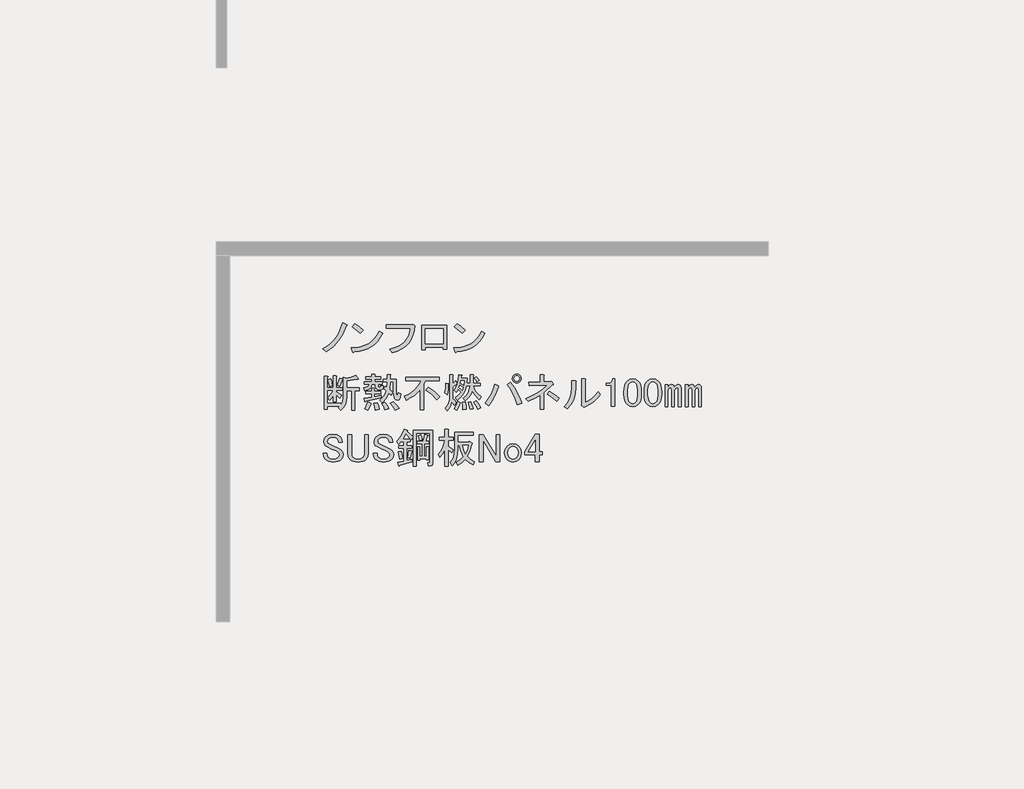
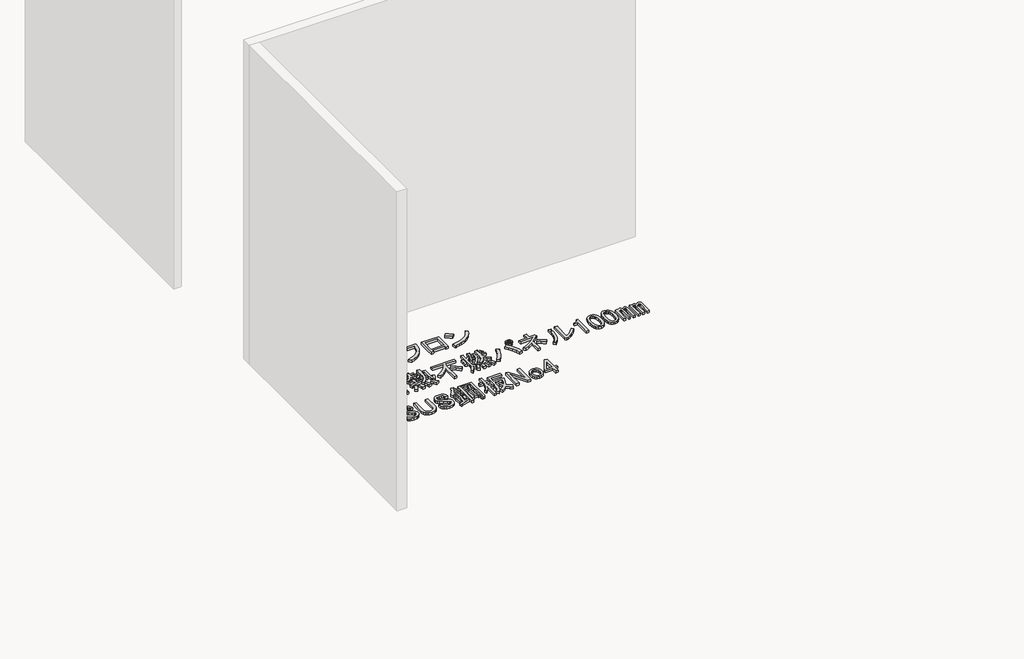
# One storey, part 26 of 117: 1 proxy.
"""IFC4 building model written with IfcOpenShell, lengths in millimetres."""

from ifc_helpers import new_model, si_unit, frame, origin, place, context, project, spatial, polyline, outline, extrude, element, save

model = new_model("IFC4")

# Units and contexts
model_context = context("Model", 3, world=origin())
ifc_project = project(units=[si_unit("LENGTHUNIT", "METRE", prefix="MILLI")], contexts=[model_context])

# Site, building, storey
site = spatial("IfcSite", under=ifc_project)
building = spatial("IfcBuilding", under=site)
storey = spatial("IfcBuildingStorey", under=building, Name="レベル 1", Elevation=500.0)

# Proxy
placement = place(None, origin())
element("IfcBuildingElementProxy", 1, Name="200㎜\u3000MS Pゴシック", ObjectType="200㎜\u3000MS Pゴシック", at=placement, inside=storey, context=model_context, shape_type="SweptSolid", body=[
    extrude(outline(polyline([(16943.6706985, -32607.0496882), (16918.0952502, -32666.8215225), (16889.646156, -32712.7998566), (16847.9782907, -32758.2034615), (16798.8389462, -32795.560858), (16771.2519457, -32773.7211493), (16818.9544673, -32743.2605029), (16858.6107805, -32704.7536481), (16875.9963381, -32680.8305462), (16891.3703435, -32652.7406577), (16904.7327969, -32620.4839827), (16916.0836981, -32584.0605212), (16947.1190736, -32597.8540214), (16950.2800841, -32602.4518548), (16943.6706985, -32607.0496882)])), frame((0.0, 0.0, 500.0), z_axis=(0.0, 0.0, 1.0), x_axis=(1.0, 0.0, 0.0)), (0.0, 0.0, 1.0), 25.0),
    extrude(outline(polyline([(17043.3977052, -32662.2236891), (16984.7753292, -32615.0958967), (17004.3161212, -32590.9572713), (17031.6157571, -32610.7854279), (17065.2374138, -32640.3839804), (17043.3977052, -32662.2236891)])), frame((0.0, 0.0, 500.0), z_axis=(0.0, 0.0, 1.0), x_axis=(1.0, 0.0, 0.0)), (0.0, 0.0, 1.0), 25.0),
    extrude(outline(polyline([(17205.4713328, -32662.2236891), (17188.947869, -32691.965924), (17169.8381239, -32717.9724192), (17148.1420975, -32740.2431748), (17123.8597898, -32758.7781907), (17096.9912008, -32773.577467), (17067.5363306, -32784.6410036), (17035.495179, -32791.9688006), (17000.8677461, -32795.560858), (16995.1204544, -32803.6070664), (16989.3731626, -32797.8597747), (16980.1774958, -32767.9738575), (17016.0082679, -32765.2977748), (17048.7857912, -32758.9937141), (17078.5100658, -32749.0616756), (17105.1810916, -32735.5016591), (17128.7988687, -32718.3136646), (17149.363397, -32697.4976923), (17166.8746766, -32673.053742), (17181.3327074, -32644.9818138), (17205.4713328, -32662.2236891)])), frame((0.0, 0.0, 500.0), z_axis=(0.0, 0.0, 1.0), x_axis=(1.0, 0.0, 0.0)), (0.0, 0.0, 1.0), 25.0),
    extrude(outline(polyline([(17256.2314136, -32777.1695243), (17290.014713, -32767.4889298), (17319.5234641, -32755.1142922), (17344.757667, -32740.0456116), (17365.7173217, -32722.282888), (17382.402428, -32701.8261214), (17394.8129862, -32678.6753118), (17402.9489961, -32652.8304591), (17406.8104577, -32624.2915635), (17234.3917049, -32624.2915635), (17234.3917049, -32599.0034798), (17409.1093744, -32599.0034798), (17425.2017914, -32595.5551047), (17437.8458332, -32607.0496882), (17434.325617, -32643.5449909), (17426.0638851, -32676.5919185), (17413.0606375, -32706.1904711), (17395.3158742, -32732.3406486), (17372.8295952, -32755.042451), (17345.6018005, -32774.2958784), (17313.6324901, -32790.1009308), (17276.921664, -32802.4576081), (17256.2314136, -32777.1695243)])), frame((0.0, 0.0, 500.0), z_axis=(0.0, 0.0, 1.0), x_axis=(1.0, 0.0, 0.0)), (0.0, 0.0, 1.0), 25.0),
    extrude(outline(polyline([(17670.955987, -32776.020066), (17644.5184449, -32776.020066), (17644.5184449, -32763.3760241), (17516.9285679, -32763.3760241), (17516.9285679, -32781.7673577), (17490.4910258, -32781.7673577), (17490.4910258, -32602.4518548), (17670.955987, -32602.4518548), (17670.955987, -32776.020066)]), holes=[polyline([(17516.9285679, -32627.7399386), (17516.9285679, -32738.0879404), (17644.5184449, -32738.0879404), (17644.5184449, -32627.7399386), (17516.9285679, -32627.7399386)])]), frame((0.0, 0.0, 500.0), z_axis=(0.0, 0.0, 1.0), x_axis=(1.0, 0.0, 0.0)), (0.0, 0.0, 1.0), 25.0),
    extrude(outline(polyline([(17947.0099049, -32662.2236891), (17930.4864411, -32691.965924), (17911.376696, -32717.9724192), (17889.6806696, -32740.2431748), (17865.3983619, -32758.7781907), (17838.5297729, -32773.577467), (17809.0749026, -32784.6410036), (17777.0337511, -32791.9688006), (17742.4063182, -32795.560858), (17736.6590264, -32803.6070664), (17730.9117347, -32797.8597747), (17721.7160679, -32767.9738575), (17757.5468399, -32765.2977748), (17790.3243633, -32758.9937141), (17820.0486378, -32749.0616756), (17846.7196637, -32735.5016591), (17870.3374407, -32718.3136646), (17890.9019691, -32697.4976923), (17908.4132486, -32673.053742), (17922.8712795, -32644.9818138), (17947.0099049, -32662.2236891)])), frame((0.0, 0.0, 500.0), z_axis=(0.0, 0.0, 1.0), x_axis=(1.0, 0.0, 0.0)), (0.0, 0.0, 1.0), 25.0),
    extrude(outline(polyline([(17784.9362772, -32662.2236891), (17726.3139013, -32615.0958967), (17745.8546933, -32590.9572713), (17773.1543291, -32610.7854279), (17806.7759859, -32640.3839804), (17784.9362772, -32662.2236891)])), frame((0.0, 0.0, 500.0), z_axis=(0.0, 0.0, 1.0), x_axis=(1.0, 0.0, 0.0)), (0.0, 0.0, 1.0), 25.0),
    extrude(outline(polyline([(16877.0021141, -33039.2345221), (16894.2439894, -32986.3594379), (16914.9342397, -32992.1067296), (16916.6584273, -32995.2677401), (16912.635323, -32997.8540214), (16895.3934477, -33046.1312722), (16877.0021141, -33039.2345221)])), frame((0.0, 0.0, 500.0), z_axis=(0.0, 0.0, 1.0), x_axis=(1.0, 0.0, 0.0)), (0.0, 0.0, 1.0), 25.0),
    extrude(outline(polyline([(17031.0295333, -32990.9572713), (17029.3053458, -32995.5551047), (17021.8338665, -32993.256188), (16944.8201569, -33005.9002299), (16944.8201569, -33055.326939), (17036.7768251, -33055.326939), (17036.7768251, -33077.1666477), (17005.7414495, -33077.1666477), (17005.7414495, -33217.4005666), (16982.7522825, -33217.4005666), (16982.7522825, -33077.1666477), (16944.8201569, -33077.1666477), (16944.8201569, -33126.5933568), (16942.2338756, -33154.3958807), (16934.4750317, -33179.1810764), (16921.5436253, -33200.948944), (16903.4396562, -33219.6994833), (16886.1977809, -33200.1586914), (16896.5429061, -33190.9630245), (16806.8851546, -33190.9630245), (16806.8851546, -33212.8027332), (16783.8959876, -33212.8027332), (16783.8959876, -32973.715396), (16805.7356963, -32973.715396), (16810.6208943, -32976.0143127), (16806.8851546, -32980.6121461), (16806.8851546, -33056.4763974), (16849.4151137, -33056.4763974), (16849.4151137, -32969.1175626), (16867.8064473, -32969.1175626), (16872.6916453, -32971.4164793), (16868.9559057, -32976.0143127), (16868.9559057, -33056.4763974), (16912.635323, -33056.4763974), (16912.635323, -33074.867731), (16868.9559057, -33074.867731), (16868.9559057, -33084.0633978), (16909.186948, -33110.5009399), (16895.3934477, -33132.3406486), (16868.9559057, -33105.9031065), (16868.9559057, -33158.7781907), (16849.4151137, -33158.7781907), (16849.4151137, -33110.5009399), (16836.1963426, -33130.3290965), (16821.8281132, -33146.1341488), (16809.1840713, -33127.7428152), (16831.02378, -33103.6041898), (16848.2656553, -33074.867731), (16806.8851546, -33074.867731), (16806.8851546, -33169.1233159), (16904.5891146, -33169.1233159), (16904.5891146, -33182.9168161), (16917.520521, -33158.7781907), (16921.8309898, -33125.4438985), (16921.8309898, -32980.6121461), (16943.6706985, -32986.3594379), (16979.8786366, -32978.8879586), (17010.339283, -32965.6691875), (17031.0295333, -32990.9572713)])), frame((0.0, 0.0, 500.0), z_axis=(0.0, 0.0, 1.0), x_axis=(1.0, 0.0, 0.0)), (0.0, 0.0, 1.0), 25.0),
    extrude(outline(polyline([(16822.9775716, -33047.2807305), (16810.3335297, -32996.7045631), (16829.8743217, -32989.8078129), (16837.6331656, -33013.9464383), (16842.5183636, -33040.3839804), (16822.9775716, -33047.2807305)])), frame((0.0, 0.0, 500.0), z_axis=(0.0, 0.0, 1.0), x_axis=(1.0, 0.0, 0.0)), (0.0, 0.0, 1.0), 25.0),
    extrude(outline(polyline([(17121.8367431, -33167.9738575), (17125.2851182, -33172.8590555), (17119.5378264, -33176.020066), (17109.7674304, -33201.5955143), (17098.8475761, -33220.8489417), (17075.858409, -33209.3543582), (17088.5024509, -33185.790462), (17098.8475761, -33158.7781907), (17121.8367431, -33167.9738575)])), frame((0.0, 0.0, 500.0), z_axis=(0.0, 0.0, 1.0), x_axis=(1.0, 0.0, 0.0)), (0.0, 0.0, 1.0), 25.0),
    extrude(outline(polyline([(17166.6656188, -33163.3760241), (17176.7233794, -33190.67566), (17181.6085774, -33212.8027332), (17152.8721186, -33218.550025), (17150.2858373, -33196.9976809), (17142.5269934, -33166.8243992), (17166.6656188, -33163.3760241)])), frame((0.0, 0.0, 500.0), z_axis=(0.0, 0.0, 1.0), x_axis=(1.0, 0.0, 0.0)), (0.0, 0.0, 1.0), 25.0),
    extrude(outline(polyline([(17281.611454, -33157.6287323), (17306.3248086, -33178.8937119), (17325.2908714, -33203.6070664), (17298.8533293, -33218.550025), (17279.5999019, -33188.9514724), (17260.9212037, -33169.1233159), (17281.611454, -33157.6287323)])), frame((0.0, 0.0, 500.0), z_axis=(0.0, 0.0, 1.0), x_axis=(1.0, 0.0, 0.0)), (0.0, 0.0, 1.0), 25.0),
    extrude(outline(polyline([(17222.9890781, -33216.2511083), (17214.655505, -33191.5377537), (17201.1493694, -33170.2727742), (17221.8396197, -33162.2265657), (17238.7941304, -33183.7789098), (17250.5760785, -33207.0554415), (17222.9890781, -33216.2511083)])), frame((0.0, 0.0, 500.0), z_axis=(0.0, 0.0, 1.0), x_axis=(1.0, 0.0, 0.0)), (0.0, 0.0, 1.0), 25.0),
    extrude(outline(polyline([(17083.9046175, -33153.0308989), (17081.8930654, -33157.9160969), (17078.1573257, -33156.479274), (17072.410034, -33132.3406486), (17127.5840349, -33124.2944401), (17127.5840349, -33101.3052731), (17083.9046175, -33101.3052731), (17083.9046175, -33082.9139395), (17127.5840349, -33082.9139395), (17127.5840349, -33059.9247724), (17145.9753685, -33059.9247724), (17150.8605665, -33062.2236891), (17147.1248268, -33066.8215225), (17147.1248268, -33082.9139395), (17191.9537026, -33082.9139395), (17191.9537026, -33101.3052731), (17147.1248268, -33101.3052731), (17147.1248268, -33120.8460651), (17197.7009943, -33111.6503983), (17197.7009943, -33127.7428152), (17083.9046175, -33153.0308989)])), frame((0.0, 0.0, 500.0), z_axis=(0.0, 0.0, 1.0), x_axis=(1.0, 0.0, 0.0)), (0.0, 0.0, 1.0), 25.0),
    extrude(outline(polyline([(17154.021577, -33031.1883136), (17128.7334932, -33031.1883136), (17124.1356598, -33048.6457123), (17113.7905346, -33061.9363245), (17097.6981177, -33071.0601502), (17075.858409, -33076.0171893), (17071.2605756, -33056.4763974), (17096.5486594, -33047.8554597), (17104.0201386, -33040.5276627), (17108.0432429, -33031.1883136), (17072.410034, -33031.1883136), (17072.410034, -33012.79698), (17126.4345765, -33012.79698), (17126.4345765, -32995.5551047), (17082.7551591, -32995.5551047), (17082.7551591, -32977.1637711), (17126.4345765, -32977.1637711), (17126.4345765, -32958.7724374), (17148.2742852, -32958.7724374), (17153.1594832, -32961.0713541), (17149.4237436, -32965.6691875), (17149.4237436, -32977.1637711), (17191.9537026, -32977.1637711), (17191.9537026, -32995.5551047), (17149.4237436, -32995.5551047), (17149.4237436, -33012.79698), (17202.2988277, -33012.79698), (17202.2988277, -33031.1883136), (17173.5623689, -33031.1883136), (17173.5623689, -33043.8323555), (17174.9991919, -33049.0049181), (17179.3096607, -33050.7291056), (17189.6547859, -33050.7291056), (17193.3905255, -33047.5680951), (17193.1031609, -33038.0850637), (17212.6439529, -33040.3839804), (17209.770307, -33061.9363245), (17204.4540622, -33067.3244106), (17196.551536, -33069.1204392), (17172.4129106, -33069.1204392), (17158.6194104, -33064.2352412), (17154.021577, -33049.5796472), (17154.021577, -33031.1883136)])), frame((0.0, 0.0, 500.0), z_axis=(0.0, 0.0, 1.0), x_axis=(1.0, 0.0, 0.0)), (0.0, 0.0, 1.0), 25.0),
    extrude(outline(polyline([(17285.0598291, -33013.9464383), (17263.2201204, -33013.9464383), (17258.622287, -33071.4193559), (17278.163079, -33089.8106896), (17267.8179538, -33111.6503983), (17251.7255369, -33095.5579813), (17232.4721095, -33133.2027424), (17202.2988277, -33165.6749408), (17185.0569525, -33144.9846905), (17200.1435933, -33133.0590601), (17213.2186821, -33117.9724192), (17224.2822187, -33099.7247679), (17233.3342033, -33078.316106), (17216.092328, -33063.3731475), (17224.1385364, -33046.1312722), (17237.9320367, -33056.4763974), (17240.2309534, -33013.9464383), (17212.6439529, -33013.9464383), (17212.6439529, -32995.5551047), (17240.2309534, -32995.5551047), (17240.2309534, -32961.0713541), (17262.0706621, -32961.0713541), (17266.95586, -32963.3702708), (17263.2201204, -32967.9681043), (17263.2201204, -32995.5551047), (17304.6006211, -32995.5551047), (17304.6006211, -33092.1096063), (17308.0489961, -33116.2482317), (17311.2818477, -33118.2597838), (17314.0836525, -33115.0987733), (17318.3941213, -33093.2590646), (17337.9349133, -33100.1558147), (17333.408921, -33126.9525626), (17325.578236, -33142.9731384), (17314.4428582, -33148.2175421), (17300.0027877, -33142.6857738), (17293.4652433, -33135.3579768), (17288.7955687, -33123.719711), (17285.0598291, -33087.5117729), (17285.0598291, -33013.9464383)])), frame((0.0, 0.0, 500.0), z_axis=(0.0, 0.0, 1.0), x_axis=(1.0, 0.0, 0.0)), (0.0, 0.0, 1.0), 25.0),
    extrude(outline(polyline([(17373.5681222, -32980.6121461), (17614.9543761, -32980.6121461), (17614.9543761, -33005.9002299), (17514.9514995, -33005.9002299), (17504.6063743, -33030.0388553), (17504.6063743, -33216.2511083), (17478.1688322, -33216.2511083), (17478.1688322, -33069.1204392), (17457.3348996, -33092.3969709), (17433.9146857, -33112.7998566), (17407.9081905, -33130.3290965), (17379.315414, -33144.9846905), (17363.222997, -33118.5471484), (17402.807469, -33098.1442626), (17436.500967, -33072.5688143), (17464.3034909, -33041.8208034), (17486.2150407, -33005.9002299), (17373.5681222, -33005.9002299), (17373.5681222, -32980.6121461)])), frame((0.0, 0.0, 500.0), z_axis=(0.0, 0.0, 1.0), x_axis=(1.0, 0.0, 0.0)), (0.0, 0.0, 1.0), 25.0),
    extrude(outline(polyline([(17600.0114176, -33141.5363154), (17560.9298336, -33103.3168252), (17519.5493329, -33073.7182726), (17535.6417498, -33053.0280223), (17579.3211672, -33081.1897519), (17620.7016679, -33119.6966067), (17600.0114176, -33141.5363154)])), frame((0.0, 0.0, 500.0), z_axis=(0.0, 0.0, 1.0), x_axis=(1.0, 0.0, 0.0)), (0.0, 0.0, 1.0), 25.0),
    extrude(outline(polyline([(17767.832337, -33163.3760241), (17759.2113993, -33193.8366704), (17744.8431699, -33220.8489417), (17725.3023779, -33208.2048998), (17739.3832427, -33183.4915453), (17749.4410033, -33155.3298156), (17767.832337, -33163.3760241)])), frame((0.0, 0.0, 500.0), z_axis=(0.0, 0.0, 1.0), x_axis=(1.0, 0.0, 0.0)), (0.0, 0.0, 1.0), 25.0),
    extrude(outline(polyline([(17682.7724189, -33025.4410219), (17687.3702523, -33027.7399386), (17682.7724189, -33032.337772), (17681.6229605, -33071.9940851), (17675.8756688, -33105.9031065), (17657.4843352, -33093.2590646), (17663.2316269, -33058.7753141), (17664.3810853, -33021.9926468), (17682.7724189, -33025.4410219)])), frame((0.0, 0.0, 500.0), z_axis=(0.0, 0.0, 1.0), x_axis=(1.0, 0.0, 0.0)), (0.0, 0.0, 1.0), 25.0),
    extrude(outline(polyline([(17734.4980447, -33007.0496882), (17743.6937116, -33024.2915635), (17745.1305345, -33030.3262199), (17740.2453365, -33030.0388553), (17713.8077944, -33050.7291056), (17713.8077944, -33134.6395653), (17727.6012946, -33146.9962426), (17739.0958781, -33163.3760241), (17726.4518363, -33184.0662744), (17708.0605026, -33158.7781907), (17696.2785545, -33194.6987642), (17674.7262104, -33224.2973168), (17659.7832519, -33205.9059831), (17674.8698927, -33187.1554438), (17685.6460648, -33166.5370346), (17692.111768, -33144.0507556), (17694.2670024, -33119.6966067), (17694.2670024, -32962.2208125), (17712.6583361, -32962.2208125), (17717.543534, -32964.5197292), (17713.8077944, -32969.1175626), (17713.8077944, -33027.7399386), (17734.4980447, -33007.0496882)])), frame((0.0, 0.0, 500.0), z_axis=(0.0, 0.0, 1.0), x_axis=(1.0, 0.0, 0.0)), (0.0, 0.0, 1.0), 25.0),
    extrude(outline(polyline([(17885.0770889, -32976.0143127), (17906.9167975, -33000.1529381), (17889.6749223, -33011.6475216), (17883.0655367, -33000.1529381), (17870.1341303, -32986.3594379), (17885.0770889, -32976.0143127)])), frame((0.0, 0.0, 500.0), z_axis=(0.0, 0.0, 1.0), x_axis=(1.0, 0.0, 0.0)), (0.0, 0.0, 1.0), 25.0),
    extrude(outline(polyline([(17895.422214, -33212.8027332), (17882.203443, -33184.6410036), (17865.5362969, -33159.927649), (17883.9276305, -33151.8814406), (17902.8936933, -33174.8706076), (17918.4113811, -33202.4576081), (17895.422214, -33212.8027332)])), frame((0.0, 0.0, 500.0), z_axis=(0.0, 0.0, 1.0), x_axis=(1.0, 0.0, 0.0)), (0.0, 0.0, 1.0), 25.0),
    extrude(outline(polyline([(17845.9955049, -33157.6287323), (17864.3868385, -33207.0554415), (17840.2482131, -33211.6532749), (17826.4547129, -33161.0771074), (17845.9955049, -33157.6287323)])), frame((0.0, 0.0, 500.0), z_axis=(0.0, 0.0, 1.0), x_axis=(1.0, 0.0, 0.0)), (0.0, 0.0, 1.0), 25.0),
    extrude(outline(polyline([(17787.3731289, -33215.1016499), (17787.9478581, -33188.0893787), (17785.0742122, -33159.927649), (17804.6150042, -33158.7781907), (17810.9370252, -33184.9283682), (17811.5117543, -33212.8027332), (17787.3731289, -33215.1016499)])), frame((0.0, 0.0, 500.0), z_axis=(0.0, 0.0, 1.0), x_axis=(1.0, 0.0, 0.0)), (0.0, 0.0, 1.0), 25.0),
    extrude(outline(polyline([(17906.9167975, -33142.6857738), (17876.1687866, -33112.2251274), (17855.1911717, -33078.316106), (17846.7857575, -33100.4431793), (17835.3630151, -33119.6966067), (17820.9229446, -33136.0763882), (17803.4655459, -33149.5825239), (17789.6720456, -33131.1911902), (17810.5059783, -33112.2969686), (17825.8799837, -33091.2475125), (17835.794062, -33068.042822), (17840.2482131, -33042.6828971), (17811.5117543, -33042.6828971), (17803.537387, -33073.2872258), (17789.9594102, -33100.7305439), (17770.777824, -33125.0128516), (17745.9926283, -33146.1341488), (17733.3485864, -33130.0417319), (17759.2113993, -33108.4893878), (17774.7290871, -33087.5117729), (17752.8893784, -33067.9709809), (17739.0958781, -33088.6612312), (17725.3023779, -33073.7182726), (17737.7308964, -33054.6803687), (17747.4294512, -33029.7514907), (17754.3980425, -32998.9316386), (17758.6366701, -32962.2208125), (17779.3269205, -32964.5197292), (17782.7752955, -32967.1060105), (17777.0280038, -32970.267021), (17774.7290871, -32988.6583546), (17818.4085044, -32988.6583546), (17814.9601294, -33024.2915635), (17840.2482131, -33024.2915635), (17840.2482131, -32962.2208125), (17862.0879218, -32962.2208125), (17866.9731198, -32964.5197292), (17863.2373802, -32969.1175626), (17863.2373802, -33024.2915635), (17912.6640893, -33024.2915635), (17912.6640893, -33042.6828971), (17863.2373802, -33042.6828971), (17869.7749245, -33064.4507647), (17881.3413492, -33084.9254916), (17897.9366542, -33104.1070778), (17919.5608394, -33121.9955234), (17906.9167975, -33142.6857738)]), holes=[polyline([(17782.7752955, -33072.5688143), (17789.6720456, -33053.0280223), (17764.3839619, -33036.9356054), (17758.6366701, -33054.1774807), (17782.7752955, -33072.5688143)]), polyline([(17772.4301704, -33007.0496882), (17768.9817953, -33023.1421052), (17794.269879, -33036.9356054), (17798.8677125, -33007.0496882), (17772.4301704, -33007.0496882)])]), frame((0.0, 0.0, 500.0), z_axis=(0.0, 0.0, 1.0), x_axis=(1.0, 0.0, 0.0)), (0.0, 0.0, 1.0), 25.0),
    extrude(outline(polyline([(18132.2106345, -33016.245355), (18158.8637001, -33052.9561812), (18181.3499791, -33090.6727833), (18199.6694716, -33129.3951616), (18213.8221775, -33169.1233159), (18182.786802, -33179.468441), (18167.3409554, -33136.3637528), (18149.7398744, -33097.856898), (18129.983559, -33063.9478766), (18108.0720092, -33034.6366887), (18132.2106345, -33016.245355)])), frame((0.0, 0.0, 500.0), z_axis=(0.0, 0.0, 1.0), x_axis=(1.0, 0.0, 0.0)), (0.0, 0.0, 1.0), 25.0),
    extrude(outline(polyline([(18044.8517998, -33042.6828971), (18048.874904, -33048.1428243), (18042.5528831, -33053.0280223), (18030.6272527, -33088.4457078), (18015.5406118, -33122.282888), (17997.2929605, -33154.539563), (17975.8842987, -33185.2157328), (17949.4467566, -33167.9738575), (17972.6514471, -33136.5074351), (17991.689351, -33103.0294606), (18006.5604684, -33067.539934), (18017.2647993, -33030.0388553), (18044.8517998, -33042.6828971)])), frame((0.0, 0.0, 500.0), z_axis=(0.0, 0.0, 1.0), x_axis=(1.0, 0.0, 0.0)), (0.0, 0.0, 1.0), 25.0),
    extrude(outline(polyline([(18178.1889686, -33021.9926468), (18165.5449268, -33019.6937301), (18155.1998016, -33012.79698), (18148.3030515, -33002.4518548), (18146.0041348, -32989.8078129), (18148.3030515, -32977.1637711), (18155.1998016, -32966.8186459), (18165.5449268, -32959.9218958), (18178.1889686, -32957.6229791), (18190.8330105, -32959.9218958), (18201.1781357, -32966.8186459), (18208.0748858, -32977.1637711), (18210.3738025, -32989.8078129), (18208.0748858, -33002.4518548), (18201.1781357, -33012.79698), (18190.8330105, -33019.6937301), (18178.1889686, -33021.9926468)]), holes=[polyline([(18178.1889686, -33010.4980633), (18186.5225417, -33009.0612403), (18193.1319272, -33004.7507715), (18197.442396, -32998.141386), (18198.879219, -32989.8078129), (18197.442396, -32981.4742399), (18193.1319272, -32974.8648544), (18186.5225417, -32970.5543855), (18178.1889686, -32969.1175626), (18169.8553956, -32970.5543855), (18163.2460101, -32974.8648544), (18158.9355412, -32981.4742399), (18157.4987183, -32989.8078129), (18158.9355412, -32998.141386), (18163.2460101, -33004.7507715), (18169.8553956, -33009.0612403), (18178.1889686, -33010.4980633)])]), frame((0.0, 0.0, 500.0), z_axis=(0.0, 0.0, 1.0), x_axis=(1.0, 0.0, 0.0)), (0.0, 0.0, 1.0), 25.0),
    extrude(outline(polyline([(18421.8741393, -33011.6475216), (18428.7708894, -33009.3486049), (18441.4149312, -33026.5904802), (18442.5643896, -33032.6251366), (18436.8170978, -33034.6366887), (18373.5968885, -33090.9601479), (18373.5968885, -33211.6532749), (18347.1593464, -33211.6532749), (18347.1593464, -33109.3514816), (18306.9283041, -33133.4901069), (18262.0994283, -33155.3298156), (18242.5586363, -33134.6395653), (18288.1059235, -33115.1706145), (18329.3427419, -33092.3969709), (18366.2690915, -33066.3186345), (18398.8849722, -33036.9356054), (18268.9961784, -33042.6828971), (18265.5478034, -33017.3948134), (18347.1593464, -33015.0958967), (18347.1593464, -32963.3702708), (18370.1485134, -32963.3702708), (18376.1831698, -32966.8186459), (18373.5968885, -32972.5659377), (18373.5968885, -33013.9464383), (18421.8741393, -33011.6475216)])), frame((0.0, 0.0, 500.0), z_axis=(0.0, 0.0, 1.0), x_axis=(1.0, 0.0, 0.0)), (0.0, 0.0, 1.0), 25.0),
    extrude(outline(polyline([(18467.8524733, -33155.3298156), (18430.7824415, -33126.0186277), (18397.7355139, -33104.7536481), (18414.9773892, -33082.9139395), (18453.7716085, -33106.1904711), (18487.3932653, -33132.3406486), (18467.8524733, -33155.3298156)])), frame((0.0, 0.0, 500.0), z_axis=(0.0, 0.0, 1.0), x_axis=(1.0, 0.0, 0.0)), (0.0, 0.0, 1.0), 25.0),
    extrude(outline(polyline([(18674.8469334, -33162.2265657), (18699.6321291, -33150.0135708), (18723.4115488, -33132.9153778), (18746.1851924, -33110.9319868), (18767.9530599, -33084.0633978), (18784.0454768, -33105.9031065), (18760.7689452, -33133.7056304), (18734.6187677, -33157.3413678), (18705.5949443, -33176.8103186), (18673.697475, -33192.1124829), (18664.5018082, -33196.7103163), (18646.1104746, -33182.9168161), (18648.4093913, -33177.1695243), (18648.4093913, -32992.1067296), (18672.5480167, -32992.1067296), (18678.2953084, -32995.5551047), (18674.8469334, -33001.3023965), (18674.8469334, -33162.2265657)])), frame((0.0, 0.0, 500.0), z_axis=(0.0, 0.0, 1.0), x_axis=(1.0, 0.0, 0.0)), (0.0, 0.0, 1.0), 25.0),
    extrude(outline(polyline([(18520.8195142, -33193.2619413), (18545.9639157, -33164.0225944), (18563.9242024, -33131.4785548), (18574.7003745, -33095.6298225), (18578.2924318, -33056.4763974), (18578.2924318, -33004.7507715), (18602.4310572, -33004.7507715), (18608.178349, -33008.1991466), (18604.7299739, -33013.9464383), (18604.7299739, -33055.326939), (18600.9223931, -33101.0897496), (18589.4996507, -33141.82368), (18570.4617468, -33177.5287301), (18543.8086812, -33208.2048998), (18520.8195142, -33193.2619413)])), frame((0.0, 0.0, 500.0), z_axis=(0.0, 0.0, 1.0), x_axis=(1.0, 0.0, 0.0)), (0.0, 0.0, 1.0), 25.0),
    extrude(outline(polyline([(18863.3581031, -33015.0958967), (18871.4043116, -33004.1760423), (18874.8526866, -32992.1067296), (18888.6461869, -32992.1067296), (18888.6461869, -33190.9630245), (18862.2086448, -33190.9630245), (18862.2086448, -33038.0850637), (18827.7248942, -33038.0850637), (18827.7248942, -33024.2915635), (18838.0700194, -33024.2915635), (18852.4382488, -33021.9926468), (18863.3581031, -33015.0958967)])), frame((0.0, 0.0, 500.0), z_axis=(0.0, 0.0, 1.0), x_axis=(1.0, 0.0, 0.0)), (0.0, 0.0, 1.0), 25.0),
    extrude(outline(polyline([(18954.1653129, -33081.7644811), (18955.6021359, -33058.2005849), (18959.9126047, -33038.0850637), (18967.0967194, -33021.4179176), (18977.15448, -33008.1991466), (18995.258449, -32996.1298339), (19017.3855223, -32992.1067296), (19039.5125956, -32996.1298339), (19057.6165646, -33008.1991466), (19067.6743252, -33021.4179176), (19074.8584399, -33038.0850637), (19079.1689087, -33058.2005849), (19080.6057317, -33081.7644811), (19080.6057317, -33104.7536481), (19079.1689087, -33127.8146563), (19074.8584399, -33147.5709718), (19067.6743252, -33164.0225944), (19057.6165646, -33177.1695243), (19039.5125956, -33189.238837), (19017.3855223, -33193.2619413), (18995.258449, -33189.238837), (18977.15448, -33177.1695243), (18967.0967194, -33164.0225944), (18959.9126047, -33147.5709718), (18955.6021359, -33127.8146563), (18954.1653129, -33104.7536481), (18954.1653129, -33081.7644811)]), holes=[polyline([(19017.3855223, -33013.9464383), (19006.4656679, -33016.245355), (18996.695272, -33023.1421052), (18990.1577276, -33032.2659308), (18985.488053, -33044.6944493), (18981.7523134, -33079.4655644), (18981.7523134, -33105.9031065), (18985.7754176, -33140.0994925), (18990.8042979, -33152.6716932), (18997.8447303, -33162.2265657), (19007.3277617, -33169.1233159), (19017.3855223, -33171.4222326), (19028.3053766, -33169.1233159), (19038.0757726, -33162.2265657), (19044.613317, -33153.1027401), (19049.2829916, -33140.6742216), (19053.0187312, -33105.9031065), (19053.0187312, -33079.4655644), (19049.2829916, -33044.6944493), (19044.613317, -33032.2659308), (19038.0757726, -33023.1421052), (19028.3053766, -33016.245355), (19017.3855223, -33013.9464383)])]), frame((0.0, 0.0, 500.0), z_axis=(0.0, 0.0, 1.0), x_axis=(1.0, 0.0, 0.0)), (0.0, 0.0, 1.0), 25.0),
    extrude(outline(polyline([(19101.295982, -33081.7644811), (19102.7328049, -33058.2005849), (19107.0432737, -33038.0850637), (19114.2273884, -33021.4179176), (19124.285149, -33008.1991466), (19142.3891181, -32996.1298339), (19164.5161914, -32992.1067296), (19186.6432646, -32996.1298339), (19204.7472337, -33008.1991466), (19214.8049943, -33021.4179176), (19221.989109, -33038.0850637), (19226.2995778, -33058.2005849), (19227.7364007, -33081.7644811), (19227.7364007, -33104.7536481), (19226.2995778, -33127.8146563), (19221.989109, -33147.5709718), (19214.8049943, -33164.0225944), (19204.7472337, -33177.1695243), (19186.6432646, -33189.238837), (19164.5161914, -33193.2619413), (19142.3891181, -33189.238837), (19124.285149, -33177.1695243), (19114.2273884, -33164.0225944), (19107.0432737, -33147.5709718), (19102.7328049, -33127.8146563), (19101.295982, -33104.7536481), (19101.295982, -33081.7644811)]), holes=[polyline([(19164.5161914, -33013.9464383), (19153.596337, -33016.245355), (19143.825941, -33023.1421052), (19137.2883966, -33032.2659308), (19132.6187221, -33044.6944493), (19128.8829824, -33079.4655644), (19128.8829824, -33105.9031065), (19132.9060867, -33140.0994925), (19137.934967, -33152.6716932), (19144.9753994, -33162.2265657), (19154.4584308, -33169.1233159), (19164.5161914, -33171.4222326), (19175.4360457, -33169.1233159), (19185.2064417, -33162.2265657), (19191.7439861, -33153.1027401), (19196.4136606, -33140.6742216), (19200.1494003, -33105.9031065), (19200.1494003, -33079.4655644), (19196.4136606, -33044.6944493), (19191.7439861, -33032.2659308), (19185.2064417, -33023.1421052), (19175.4360457, -33016.245355), (19164.5161914, -33013.9464383)])]), frame((0.0, 0.0, 500.0), z_axis=(0.0, 0.0, 1.0), x_axis=(1.0, 0.0, 0.0)), (0.0, 0.0, 1.0), 25.0),
    extrude(outline(polyline([(19272.5652764, -33193.2619413), (19253.0244845, -33193.2619413), (19253.0244845, -33035.786147), (19272.5652764, -33035.786147), (19272.5652764, -33053.0280223), (19284.6345891, -33037.5103346), (19297.8533602, -33032.337772), (19307.049027, -33033.7745949), (19313.9457771, -33038.0850637), (19320.8425272, -33051.878564), (19333.7739337, -33037.22297), (19347.2800693, -33032.337772), (19355.6136424, -33033.7745949), (19362.2230279, -33038.0850637), (19367.3955905, -33046.7060014), (19369.119778, -33058.7753141), (19369.119778, -33193.2619413), (19349.578986, -33193.2619413), (19349.578986, -33069.1204392), (19346.9927047, -33059.6374078), (19339.2338609, -33056.4763974), (19328.8887357, -33061.0742308), (19322.8540793, -33069.6951684), (19320.8425272, -33079.4655644), (19320.8425272, -33193.2619413), (19301.3017352, -33193.2619413), (19301.3017352, -33069.1204392), (19298.715454, -33059.6374078), (19290.9566101, -33056.4763974), (19280.6114849, -33061.0742308), (19274.5768286, -33069.6951684), (19272.5652764, -33079.4655644), (19272.5652764, -33193.2619413)])), frame((0.0, 0.0, 500.0), z_axis=(0.0, 0.0, 1.0), x_axis=(1.0, 0.0, 0.0)), (0.0, 0.0, 1.0), 25.0),
    extrude(outline(polyline([(19494.4107384, -33032.337772), (19502.7443114, -33033.7745949), (19509.353697, -33038.0850637), (19514.5262595, -33046.7060014), (19516.2504471, -33058.7753141), (19516.2504471, -33193.2619413), (19496.7096551, -33193.2619413), (19496.7096551, -33069.1204392), (19494.1233738, -33059.6374078), (19486.3645299, -33056.4763974), (19476.0194048, -33061.0742308), (19469.9847484, -33069.6951684), (19467.9731963, -33079.4655644), (19467.9731963, -33193.2619413), (19448.4324043, -33193.2619413), (19448.4324043, -33069.1204392), (19445.846123, -33059.6374078), (19438.0872791, -33056.4763974), (19427.742154, -33061.0742308), (19421.7074976, -33069.6951684), (19419.6959455, -33079.4655644), (19419.6959455, -33193.2619413), (19400.1551535, -33193.2619413), (19400.1551535, -33035.786147), (19419.6959455, -33035.786147), (19419.6959455, -33053.0280223), (19431.7652582, -33037.5103346), (19444.9840292, -33032.337772), (19454.1796961, -33033.7745949), (19461.0764462, -33038.0850637), (19467.9731963, -33051.878564), (19480.9046028, -33037.22297), (19494.4107384, -33032.337772)])), frame((0.0, 0.0, 500.0), z_axis=(0.0, 0.0, 1.0), x_axis=(1.0, 0.0, 0.0)), (0.0, 0.0, 1.0), 25.0),
    extrude(outline(polyline([(16779.2981542, -33447.2807305), (16783.3212584, -33426.8778448), (16795.3905711, -33409.3486049), (16815.7934569, -33397.2792922), (16844.8172803, -33393.256188), (16876.1400204, -33397.8540214), (16898.8418228, -33411.6475216), (16910.9111355, -33429.1767615), (16914.9342397, -33449.5796472), (16888.4966976, -33449.5796472), (16886.1977809, -33436.9356054), (16879.3010308, -33426.5904802), (16866.0822598, -33418.8316363), (16847.116197, -33416.245355), (16826.7133112, -33418.5442717), (16813.7819048, -33425.4410219), (16807.7472484, -33434.0619595), (16805.7356963, -33443.8323555), (16810.3335297, -33458.7753141), (16831.02378, -33470.2698976), (16890.7956143, -33496.7074397), (16908.0374896, -33508.2020232), (16917.520521, -33521.9955234), (16920.6815315, -33538.0879404), (16916.6584273, -33559.3529199), (16904.5891146, -33577.1695243), (16894.6031951, -33584.7128448), (16881.8873121, -33590.1009308), (16848.2656553, -33594.4113996), (16814.6439985, -33589.238837), (16801.0660217, -33582.7731338), (16789.6432794, -33573.7211493), (16778.4360604, -33555.3298156), (16774.7003208, -33530.0417319), (16801.1378629, -33530.0417319), (16803.4367796, -33547.8583363), (16810.3335297, -33559.927649), (16826.4259466, -33569.4106804), (16849.4151137, -33572.5716909), (16870.3927286, -33569.698045), (16885.0483226, -33561.0771074), (16891.9450727, -33551.8814406), (16894.2439894, -33542.6857738), (16892.5198019, -33533.2027424), (16887.3472393, -33525.4438985), (16868.9559057, -33513.949315), (16839.0699885, -33500.1558147), (16805.7356963, -33485.2128562), (16789.6432794, -33474.867731), (16781.8844355, -33462.7984183), (16779.2981542, -33447.2807305)])), frame((0.0, 0.0, 500.0), z_axis=(0.0, 0.0, 1.0), x_axis=(1.0, 0.0, 0.0)), (0.0, 0.0, 1.0), 25.0),
    extrude(outline(polyline([(16954.7054987, -33395.5551047), (16981.1430408, -33395.5551047), (16981.1430408, -33533.4901069), (16983.7293221, -33548.1457009), (16991.488166, -33559.927649), (17007.0058537, -33569.4106804), (17028.2708332, -33572.5716909), (17049.5358128, -33569.4106804), (17065.0535005, -33559.927649), (17072.8123444, -33548.1457009), (17075.3986257, -33533.4901069), (17075.3986257, -33395.5551047), (17101.8361678, -33395.5551047), (17101.8361678, -33534.6395653), (17097.8130635, -33557.6287323), (17085.7437508, -33576.020066), (17075.2549434, -33584.0662744), (17062.1798546, -33589.8135662), (17028.2708332, -33594.4113996), (16994.3618119, -33589.8135662), (16981.2867231, -33584.0662744), (16970.7979156, -33576.020066), (16958.7286029, -33557.6287323), (16954.7054987, -33534.6395653), (16954.7054987, -33395.5551047)])), frame((0.0, 0.0, 500.0), z_axis=(0.0, 0.0, 1.0), x_axis=(1.0, 0.0, 0.0)), (0.0, 0.0, 1.0), 25.0),
    extrude(outline(polyline([(17144.1822135, -33447.2807305), (17148.2053177, -33426.8778448), (17160.2746304, -33409.3486049), (17180.6775161, -33397.2792922), (17209.7013395, -33393.256188), (17241.0240796, -33397.8540214), (17263.7258821, -33411.6475216), (17275.7951948, -33429.1767615), (17279.818299, -33449.5796472), (17253.3807569, -33449.5796472), (17251.0818402, -33436.9356054), (17244.1850901, -33426.5904802), (17230.966319, -33418.8316363), (17212.0002562, -33416.245355), (17191.5973705, -33418.5442717), (17178.665964, -33425.4410219), (17172.6313077, -33434.0619595), (17170.6197556, -33443.8323555), (17175.217589, -33458.7753141), (17195.9078393, -33470.2698976), (17255.6796736, -33496.7074397), (17272.9215489, -33508.2020232), (17282.4045803, -33521.9955234), (17285.5655908, -33538.0879404), (17281.5424865, -33559.3529199), (17269.4731738, -33577.1695243), (17259.4872544, -33584.7128448), (17246.7713714, -33590.1009308), (17213.1497146, -33594.4113996), (17179.5280578, -33589.238837), (17165.950081, -33582.7731338), (17154.5273386, -33573.7211493), (17143.3201197, -33555.3298156), (17139.5843801, -33530.0417319), (17166.0219222, -33530.0417319), (17168.3208389, -33547.8583363), (17175.217589, -33559.927649), (17191.3100059, -33569.4106804), (17214.2991729, -33572.5716909), (17235.2767879, -33569.698045), (17249.9323819, -33561.0771074), (17256.829132, -33551.8814406), (17259.1280487, -33542.6857738), (17257.4038611, -33533.2027424), (17252.2312986, -33525.4438985), (17233.8399649, -33513.949315), (17203.9540478, -33500.1558147), (17170.6197556, -33485.2128562), (17154.5273386, -33474.867731), (17146.7684948, -33462.7984183), (17144.1822135, -33447.2807305)])), frame((0.0, 0.0, 500.0), z_axis=(0.0, 0.0, 1.0), x_axis=(1.0, 0.0, 0.0)), (0.0, 0.0, 1.0), 25.0),
    extrude(outline(polyline([(17534.5382698, -33399.0034798), (17537.1245511, -33402.4518548), (17531.0898948, -33405.9002299), (17518.4458529, -33443.8323555), (17539.1361032, -33443.8323555), (17539.1361032, -33462.2236891), (17508.1007277, -33462.2236891), (17508.1007277, -33550.7319822), (17523.0436863, -33550.7319822), (17523.0436863, -33482.9139395), (17539.1361032, -33482.9139395), (17539.1361032, -33577.1695243), (17523.0436863, -33577.1695243), (17523.0436863, -33569.1233159), (17477.0653522, -33569.1233159), (17477.0653522, -33581.7673577), (17460.9729353, -33581.7673577), (17460.9729353, -33485.2128562), (17477.0653522, -33485.2128562), (17477.0653522, -33550.7319822), (17492.0083108, -33550.7319822), (17492.0083108, -33462.2236891), (17456.3751019, -33462.2236891), (17456.3751019, -33443.8323555), (17502.353436, -33443.8323555), (17512.6985611, -33394.4056463), (17534.5382698, -33399.0034798)])), frame((0.0, 0.0, 500.0), z_axis=(0.0, 0.0, 1.0), x_axis=(1.0, 0.0, 0.0)), (0.0, 0.0, 1.0), 25.0),
    extrude(outline(polyline([(17428.7881014, -33365.6691875), (17569.0220204, -33365.6691875), (17569.0220204, -33605.9059831), (17565.2862807, -33617.1132021), (17554.0790618, -33620.8489417), (17537.9866449, -33620.8489417), (17533.3888115, -33599.009233), (17544.883395, -33599.009233), (17548.33177, -33597.8597747), (17549.4812284, -33594.4113996), (17549.4812284, -33384.0605212), (17448.3288934, -33384.0605212), (17448.3288934, -33623.1478584), (17428.7881014, -33623.1478584), (17428.7881014, -33365.6691875)])), frame((0.0, 0.0, 500.0), z_axis=(0.0, 0.0, 1.0), x_axis=(1.0, 0.0, 0.0)), (0.0, 0.0, 1.0), 25.0),
    extrude(outline(polyline([(17481.6631856, -33397.8540214), (17488.8473003, -33413.0843446), (17494.3072275, -33433.4872303), (17477.0653522, -33439.2345221), (17465.5707687, -33402.4518548), (17481.6631856, -33397.8540214)])), frame((0.0, 0.0, 500.0), z_axis=(0.0, 0.0, 1.0), x_axis=(1.0, 0.0, 0.0)), (0.0, 0.0, 1.0), 25.0),
    extrude(outline(polyline([(17413.8451429, -33434.6366887), (17372.4646422, -33390.9572713), (17350.6249335, -33430.0388553), (17405.7989344, -33430.0388553), (17405.7989344, -33448.4301889), (17379.3613923, -33448.4301889), (17379.3613923, -33477.1666477), (17417.2935179, -33477.1666477), (17417.2935179, -33495.5579813), (17379.3613923, -33495.5579813), (17379.3613923, -33582.9168161), (17418.4429763, -33572.5716909), (17420.741893, -33592.1124829), (17328.7852248, -33617.4005666), (17326.4863081, -33623.1478584), (17321.8884747, -33619.6994833), (17314.9917246, -33596.7103163), (17359.8206003, -33587.5146495), (17359.8206003, -33495.5579813), (17321.8884747, -33495.5579813), (17321.8884747, -33477.1666477), (17359.8206003, -33477.1666477), (17359.8206003, -33448.4301889), (17337.9808916, -33448.4301889), (17323.037933, -33466.8215225), (17310.3938912, -33446.1312722), (17338.5556208, -33408.4865112), (17363.2689754, -33357.6229791), (17385.1086841, -33363.3702708), (17388.5570591, -33367.1060105), (17382.8097674, -33369.1175626), (17381.660309, -33372.5659377), (17426.4891847, -33410.4980633), (17413.8451429, -33434.6366887)])), frame((0.0, 0.0, 500.0), z_axis=(0.0, 0.0, 1.0), x_axis=(1.0, 0.0, 0.0)), (0.0, 0.0, 1.0), 25.0),
    extrude(outline(polyline([(17417.2935179, -33513.949315), (17419.8797992, -33517.1103254), (17416.1440596, -33519.6966067), (17408.0978511, -33566.8243992), (17389.7065175, -33564.5254825), (17395.4538092, -33510.5009399), (17417.2935179, -33513.949315)])), frame((0.0, 0.0, 500.0), z_axis=(0.0, 0.0, 1.0), x_axis=(1.0, 0.0, 0.0)), (0.0, 0.0, 1.0), 25.0),
    extrude(outline(polyline([(17340.2798083, -33515.0987733), (17351.7743918, -33566.8243992), (17331.0841415, -33572.5716909), (17319.589558, -33520.8460651), (17340.2798083, -33515.0987733)])), frame((0.0, 0.0, 500.0), z_axis=(0.0, 0.0, 1.0), x_axis=(1.0, 0.0, 0.0)), (0.0, 0.0, 1.0), 25.0),
    extrude(outline(polyline([(17740.2913148, -33594.4113996), (17769.0277736, -33577.1695243), (17790.8674823, -33555.3298156), (17773.0508779, -33513.3745858), (17763.2804819, -33472.5688143), (17750.63644, -33472.5688143), (17750.63644, -33496.7074397), (17748.193841, -33538.4471461), (17740.866044, -33572.8590555), (17728.653049, -33599.9431679), (17711.554856, -33619.6994833), (17697.7613558, -33596.7103163), (17710.8364446, -33579.3247587), (17720.1757937, -33557.0540032), (17725.7794031, -33529.8980496), (17727.647273, -33497.856898), (17727.647273, -33377.1637711), (17864.4328169, -33377.1637711), (17864.4328169, -33399.0034798), (17750.63644, -33399.0034798), (17750.63644, -33450.7291056), (17829.9490663, -33450.7291056), (17835.6963581, -33444.9818138), (17855.23715, -33458.7753141), (17856.673973, -33462.5110537), (17851.788775, -33466.8215225), (17839.4320977, -33513.3745858), (17820.7533995, -33554.1803573), (17839.7194623, -33572.5716909), (17871.329567, -33590.9630245), (17862.1339002, -33615.1016499), (17834.2595351, -33599.009233), (17805.8104409, -33573.7211493), (17781.3844509, -33598.1471392), (17749.4869817, -33618.550025), (17740.2913148, -33594.4113996)]), holes=[polyline([(17785.1201906, -33472.5688143), (17793.166399, -33505.6157419), (17805.8104409, -33533.4901069), (17818.4544828, -33507.3399294), (17826.5006912, -33472.5688143), (17785.1201906, -33472.5688143)])]), frame((0.0, 0.0, 500.0), z_axis=(0.0, 0.0, 1.0), x_axis=(1.0, 0.0, 0.0)), (0.0, 0.0, 1.0), 25.0),
    extrude(outline(polyline([(17657.5303135, -33623.1478584), (17657.5303135, -33503.6041898), (17639.713709, -33537.8005758), (17620.7476462, -33559.927649), (17609.2530627, -33539.2373987), (17626.494938, -33516.5355963), (17640.2884382, -33492.1096063), (17650.6335634, -33465.9594288), (17657.5303135, -33438.0850637), (17616.1498128, -33438.0850637), (17616.1498128, -33416.245355), (17657.5303135, -33416.245355), (17657.5303135, -33356.4735207), (17679.3700222, -33356.4735207), (17684.2552202, -33358.7724374), (17680.5194805, -33363.3702708), (17680.5194805, -33416.245355), (17718.4516061, -33416.245355), (17718.4516061, -33438.0850637), (17680.5194805, -33438.0850637), (17680.5194805, -33478.316106), (17718.4516061, -33504.7536481), (17708.106481, -33527.7428152), (17680.5194805, -33504.7536481), (17680.5194805, -33623.1478584), (17657.5303135, -33623.1478584)])), frame((0.0, 0.0, 500.0), z_axis=(0.0, 0.0, 1.0), x_axis=(1.0, 0.0, 0.0)), (0.0, 0.0, 1.0), 25.0),
    extrude(outline(polyline([(17908.1122342, -33395.5551047), (17936.848693, -33395.5551047), (18028.8053612, -33550.7319822), (18028.8053612, -33395.5551047), (18055.2429033, -33395.5551047), (18055.2429033, -33592.1124829), (18026.5064445, -33592.1124829), (17934.5497763, -33436.9356054), (17934.5497763, -33592.1124829), (17908.1122342, -33592.1124829), (17908.1122342, -33395.5551047)])), frame((0.0, 0.0, 500.0), z_axis=(0.0, 0.0, 1.0), x_axis=(1.0, 0.0, 0.0)), (0.0, 0.0, 1.0), 25.0),
    extrude(outline(polyline([(18088.3932822, -33527.7428152), (18093.2784802, -33500.4431793), (18107.9340742, -33478.316106), (18127.1875015, -33465.3846996), (18150.4640332, -33461.0742308), (18173.7405648, -33465.3846996), (18192.9939922, -33478.316106), (18207.6495862, -33500.4431793), (18212.5347842, -33527.7428152), (18207.6495862, -33555.042451), (18192.9939922, -33577.1695243), (18173.7405648, -33590.1009308), (18150.4640332, -33594.4113996), (18127.1875015, -33590.1009308), (18107.9340742, -33577.1695243), (18093.2784802, -33555.042451), (18088.3932822, -33527.7428152)]), holes=[polyline([(18150.4640332, -33481.7644811), (18137.8199913, -33484.0633978), (18127.4748661, -33490.9601479), (18117.129741, -33507.0525648), (18113.6813659, -33527.7428152), (18116.8423764, -33548.1457009), (18126.3254078, -33563.3760241), (18137.5326267, -33571.134868), (18150.4640332, -33573.7211493), (18163.3954396, -33571.134868), (18174.6026586, -33563.3760241), (18184.08569, -33548.1457009), (18187.2467004, -33527.7428152), (18183.7983254, -33507.0525648), (18173.4532002, -33490.9601479), (18163.1080751, -33484.0633978), (18150.4640332, -33481.7644811)])]), frame((0.0, 0.0, 500.0), z_axis=(0.0, 0.0, 1.0), x_axis=(1.0, 0.0, 0.0)), (0.0, 0.0, 1.0), 25.0),
    extrude(outline(polyline([(18313.1813575, -33393.256188), (18339.6188996, -33393.256188), (18339.6188996, -33519.6966067), (18363.757525, -33519.6966067), (18363.757525, -33541.5363154), (18339.6188996, -33541.5363154), (18339.6188996, -33592.1124829), (18313.1813575, -33592.1124829), (18313.1813575, -33541.5363154), (18236.1676479, -33541.5363154), (18236.1676479, -33518.5471484), (18313.1813575, -33393.256188)]), holes=[polyline([(18313.1813575, -33435.786147), (18261.4557317, -33519.6966067), (18313.1813575, -33519.6966067), (18313.1813575, -33435.786147)])]), frame((0.0, 0.0, 500.0), z_axis=(0.0, 0.0, 1.0), x_axis=(1.0, 0.0, 0.0)), (0.0, 0.0, 1.0), 25.0),
])

save(model, "model.ifc")
